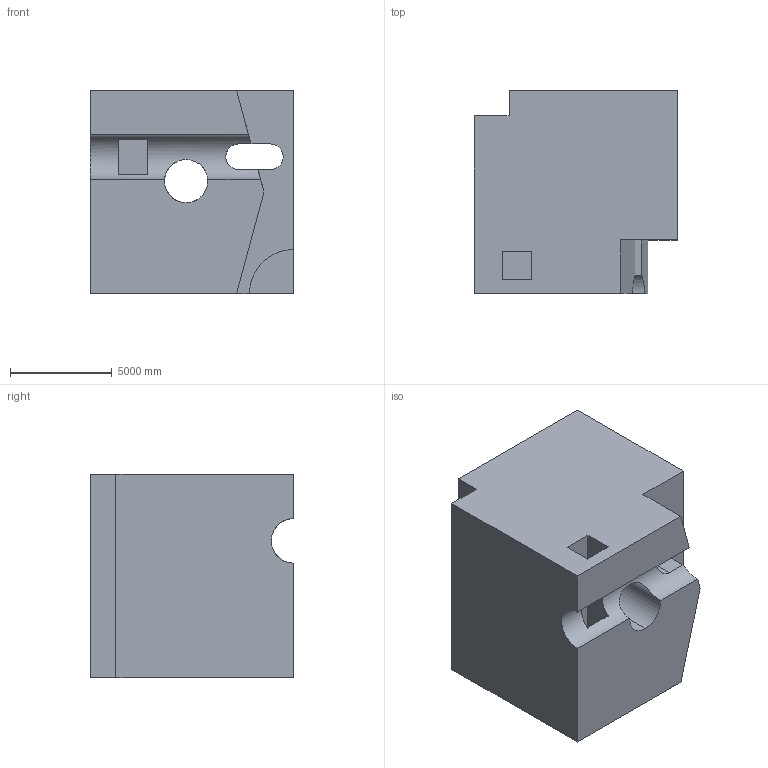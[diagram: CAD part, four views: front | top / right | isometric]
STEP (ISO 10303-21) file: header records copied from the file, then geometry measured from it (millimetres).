
FILE_DESCRIPTION (( 'STEP AP203' ), '1' );
FILE_NAME ('1806.STEP', '2022-08-26T10:39:03', ( 'user' ), ( '' ), 'SwSTEP 2.0', 'SolidWorks 2021', '' );
FILE_SCHEMA (( 'CONFIG_CONTROL_DESIGN' ));
Length unit declared in the file: centimetre
Products named in the file (1): 1806
Bounding box: 10000 x 10000 x 10000 mm (x, y, z)
Volume: 805036885554.7 mm3; surface area: 740031254.2 mm2
Topology: 1 solids, 1 shells, 36 faces, 105 edges, 70 vertices
Faces by surface type: plane 30, cylinder 6
Entity records: 1577 total; most frequent: CARTESIAN_POINT 531, ORIENTED_EDGE 210, DIRECTION 186, EDGE_CURVE 105, VECTOR 88, LINE 88, VERTEX_POINT 70, AXIS2_PLACEMENT_3D 49
